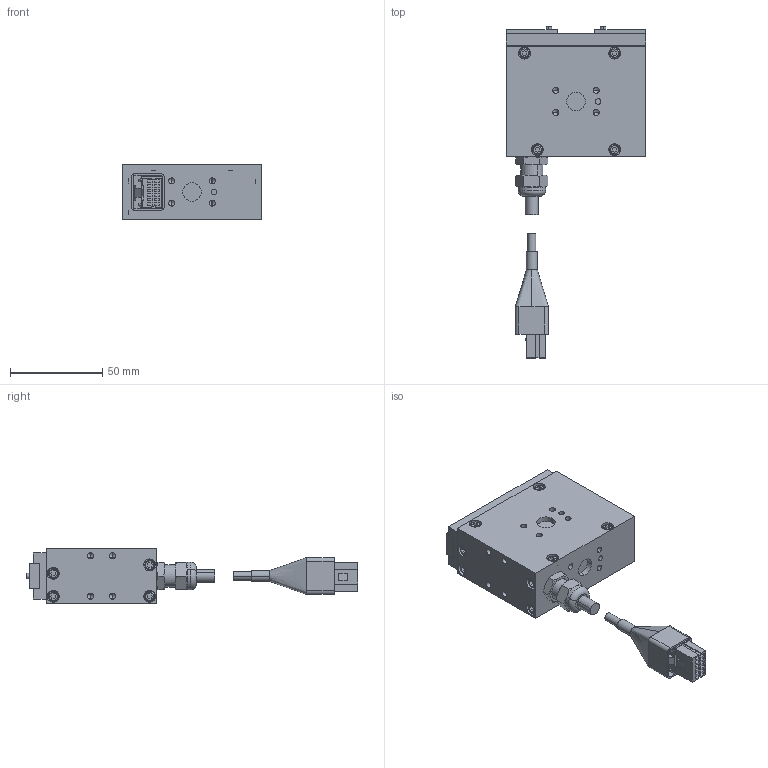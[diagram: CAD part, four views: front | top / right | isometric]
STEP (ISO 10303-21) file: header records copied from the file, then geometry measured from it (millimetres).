
FILE_DESCRIPTION (( 'STEP AP214' ), '1' );
FILE_NAME ('ESG-FS-2020-P.STEP', '2009-02-12T09:03:39', ( '風音庵' ), ( '' ), 'SwSTEP 2.0', 'SolidWorks 2007', '' );
FILE_SCHEMA (( 'AUTOMOTIVE_DESIGN' ));
Length unit declared in the file: millimetre
Products named in the file (7): JOINT_蹬怮椔; ESG1-FS-2020-P BODY_蹬怮椔; ESG-FS-2020-P; CONNECTOR COVER　BB_ﾃﾞﾌｫﾙﾄ; CONNECTOR　DK-2100D-12R_ﾃﾞﾌｫﾙﾄ; CNNECTOR丂BB丂ASSY_棉太倌; ESG1-FS-2020 FINGER_蹬怮椔
Assembly tree (7 placements, depth 3):
  ESG-FS-2020-P
    CNNECTOR丂BB丂ASSY_棉太倌
      CONNECTOR COVER　BB_ﾃﾞﾌｫﾙﾄ
      CONNECTOR　DK-2100D-12R_ﾃﾞﾌｫﾙﾄ
    ESG1-FS-2020 FINGER_蹬怮椔  x2
    JOINT_蹬怮椔
    ESG1-FS-2020-P BODY_蹬怮椔
Bounding box: 76 x 180.39 x 30 mm (x, y, z)
Volume: 160505.1 mm3; surface area: 33156.3 mm2
Topology: 6 solids, 6 shells, 447 faces, 1048 edges, 658 vertices
Faces by surface type: plane 263, cylinder 104, cone 76, bspline 2, torus 2
Entity records: 17604 total; most frequent: CARTESIAN_POINT 2775, DIRECTION 2064, ORIENTED_EDGE 1980, EDGE_CURVE 990, LINE 690, VECTOR 690, AXIS2_PLACEMENT_3D 687, VERTEX_POINT 636
